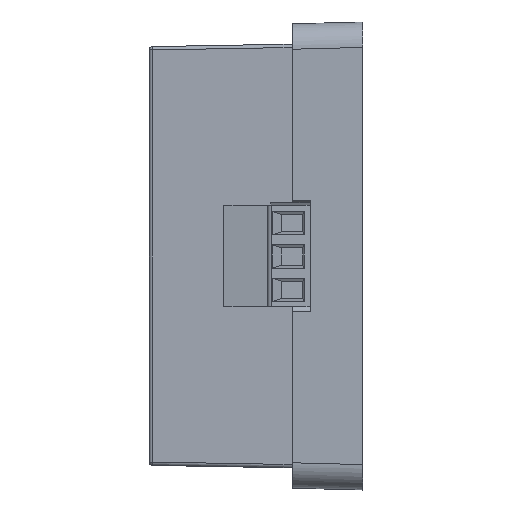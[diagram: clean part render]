
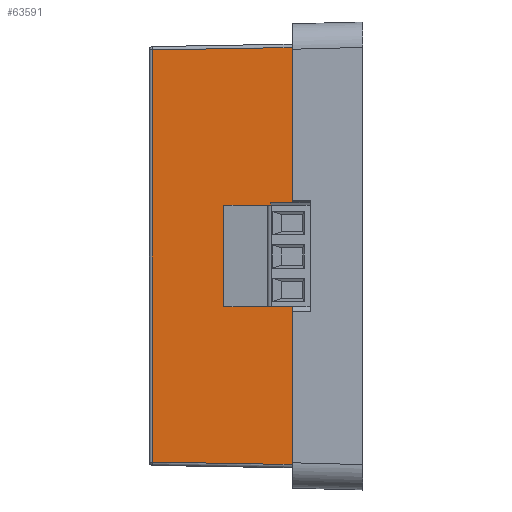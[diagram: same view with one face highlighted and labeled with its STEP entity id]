
A CAD part, left-side view. The second image highlights one B-rep face of the part: STEP entity #63591.
In plain terms, the highlighted planar face has unit normal (-1, 0.018, 0).
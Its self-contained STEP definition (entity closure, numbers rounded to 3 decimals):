
#465 = DIRECTION ( 'NONE',  ( 0.017, 1., 0. ) ) ;
#1902 = DIRECTION ( 'NONE',  ( -1., 0.017, 0. ) ) ;
#3576 = DIRECTION ( 'NONE',  ( -0.017, -1., -0.017 ) ) ;
#8766 = VERTEX_POINT ( 'NONE', #60816 ) ;
#14387 = EDGE_CURVE ( 'NONE', #26129, #8766, #45595, .T. ) ;
#14606 = EDGE_LOOP ( 'NONE', ( #28248, #44837, #60928, #20789 ) ) ;
#16952 = FACE_OUTER_BOUND ( 'NONE', #14606, .T. ) ;
#20789 = ORIENTED_EDGE ( 'NONE', *, *, #59185, .T. ) ;
#21049 = EDGE_CURVE ( 'NONE', #41706, #8766, #24395, .T. ) ;
#22675 = CARTESIAN_POINT ( 'NONE',  ( -42.797, -14.128, 44.25 ) ) ;
#23181 = VECTOR ( 'NONE', #62605, 1000. ) ;
#24395 = LINE ( 'NONE', #52721, #41370 ) ;
#26129 = VERTEX_POINT ( 'NONE', #54620 ) ;
#28248 = ORIENTED_EDGE ( 'NONE', *, *, #33149, .T. ) ;
#29493 = DIRECTION ( 'NONE',  ( 0., 0., -1. ) ) ;
#33149 = EDGE_CURVE ( 'NONE', #47761, #41706, #69285, .T. ) ;
#33687 = VECTOR ( 'NONE', #29493, 1000. ) ;
#35271 = CARTESIAN_POINT ( 'NONE',  ( -42.778, -13.029, 107.231 ) ) ;
#39495 = CARTESIAN_POINT ( 'NONE',  ( -42.797, -14.128, 44.25 ) ) ;
#40610 = LINE ( 'NONE', #35271, #23181 ) ;
#41239 = CARTESIAN_POINT ( 'NONE',  ( -42.369, 10.381, 44.25 ) ) ;
#41370 = VECTOR ( 'NONE', #3576, 1000. ) ;
#41706 = VERTEX_POINT ( 'NONE', #52680 ) ;
#43455 = AXIS2_PLACEMENT_3D ( 'NONE', #22675, #1902, #465 ) ;
#44837 = ORIENTED_EDGE ( 'NONE', *, *, #21049, .T. ) ;
#45595 = LINE ( 'NONE', #39495, #33687 ) ;
#47761 = VERTEX_POINT ( 'NONE', #68880 ) ;
#50308 = PLANE ( 'NONE',  #43455 ) ;
#52430 = DIRECTION ( 'NONE',  ( 0., 0., -1. ) ) ;
#52680 = CARTESIAN_POINT ( 'NONE',  ( -42.369, 10.381, 45.178 ) ) ;
#52721 = CARTESIAN_POINT ( 'NONE',  ( -42.797, -14.137, 44.75 ) ) ;
#53695 = VECTOR ( 'NONE', #52430, 1000. ) ;
#54620 = CARTESIAN_POINT ( 'NONE',  ( -42.797, -14.128, 107.25 ) ) ;
#59185 = EDGE_CURVE ( 'NONE', #26129, #47761, #40610, .T. ) ;
#60816 = CARTESIAN_POINT ( 'NONE',  ( -42.797, -14.128, 44.75 ) ) ;
#60928 = ORIENTED_EDGE ( 'NONE', *, *, #14387, .F. ) ;
#62605 = DIRECTION ( 'NONE',  ( 0.017, 1., -0.017 ) ) ;
#63591 = ADVANCED_FACE ( 'NONE', ( #16952 ), #50308, .T. ) ;
#68880 = CARTESIAN_POINT ( 'NONE',  ( -42.369, 10.381, 106.822 ) ) ;
#69285 = LINE ( 'NONE', #41239, #53695 ) ;
